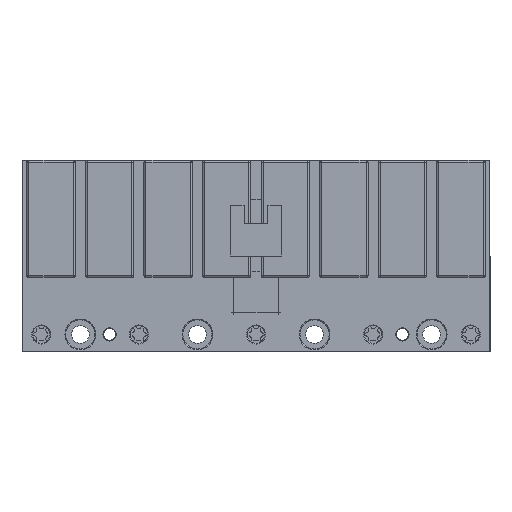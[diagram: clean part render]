
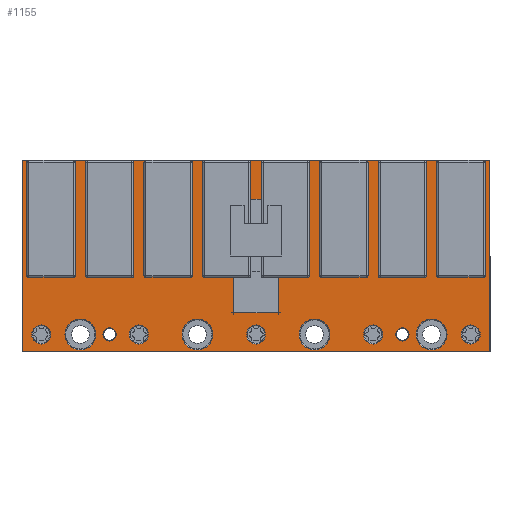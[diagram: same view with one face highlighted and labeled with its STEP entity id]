
A CAD part, front view. The second image highlights one B-rep face of the part: STEP entity #1155.
In plain terms, the highlighted planar face has unit normal (0, -1, 0).
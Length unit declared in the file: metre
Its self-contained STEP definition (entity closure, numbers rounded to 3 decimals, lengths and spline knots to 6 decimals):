
#1155 = ADVANCED_FACE( '', ( #1777, #1778, #1779, #1780, #1781, #1782, #1783, #1784, #1785, #1786, #1787, #1788 ), #1789, .T. );
#1777 = FACE_BOUND( '', #3030, .T. );
#1778 = FACE_BOUND( '', #3031, .T. );
#1779 = FACE_BOUND( '', #3032, .T. );
#1780 = FACE_BOUND( '', #3033, .T. );
#1781 = FACE_BOUND( '', #3034, .T. );
#1782 = FACE_BOUND( '', #3035, .T. );
#1783 = FACE_BOUND( '', #3036, .T. );
#1784 = FACE_BOUND( '', #3037, .T. );
#1785 = FACE_BOUND( '', #3038, .T. );
#1786 = FACE_BOUND( '', #3039, .T. );
#1787 = FACE_BOUND( '', #3040, .T. );
#1788 = FACE_OUTER_BOUND( '', #3041, .T. );
#1789 = PLANE( '', #3042 );
#3030 = EDGE_LOOP( '', ( #4398 ) );
#3031 = EDGE_LOOP( '', ( #4399 ) );
#3032 = EDGE_LOOP( '', ( #4400 ) );
#3033 = EDGE_LOOP( '', ( #4401 ) );
#3034 = EDGE_LOOP( '', ( #4402 ) );
#3035 = EDGE_LOOP( '', ( #4403 ) );
#3036 = EDGE_LOOP( '', ( #4404 ) );
#3037 = EDGE_LOOP( '', ( #4405 ) );
#3038 = EDGE_LOOP( '', ( #4406 ) );
#3039 = EDGE_LOOP( '', ( #4407 ) );
#3040 = EDGE_LOOP( '', ( #4408 ) );
#3041 = EDGE_LOOP( '', ( #4409, #4410, #4411, #4412 ) );
#3042 = AXIS2_PLACEMENT_3D( '', #4413, #4414, #4415 );
#4398 = ORIENTED_EDGE( '', *, *, #8495, .T. );
#4399 = ORIENTED_EDGE( '', *, *, #8496, .T. );
#4400 = ORIENTED_EDGE( '', *, *, #8498, .T. );
#4401 = ORIENTED_EDGE( '', *, *, #8500, .T. );
#4402 = ORIENTED_EDGE( '', *, *, #8501, .T. );
#4403 = ORIENTED_EDGE( '', *, *, #8503, .T. );
#4404 = ORIENTED_EDGE( '', *, *, #8504, .T. );
#4405 = ORIENTED_EDGE( '', *, *, #8506, .T. );
#4406 = ORIENTED_EDGE( '', *, *, #8508, .T. );
#4407 = ORIENTED_EDGE( '', *, *, #8510, .T. );
#4408 = ORIENTED_EDGE( '', *, *, #8512, .T. );
#4409 = ORIENTED_EDGE( '', *, *, #8448, .T. );
#4410 = ORIENTED_EDGE( '', *, *, #8487, .T. );
#4411 = ORIENTED_EDGE( '', *, *, #8468, .T. );
#4412 = ORIENTED_EDGE( '', *, *, #8486, .T. );
#4413 = CARTESIAN_POINT( '', ( -0.05995, -0.002, 0.0245 ) );
#4414 = DIRECTION( '', ( 0., -1., 0. ) );
#4415 = DIRECTION( '', ( 0., 0., -1. ) );
#8448 = EDGE_CURVE( '', #9723, #9721, #9724, .T. );
#8468 = EDGE_CURVE( '', #9735, #9759, #9761, .T. );
#8486 = EDGE_CURVE( '', #9759, #9723, #9789, .T. );
#8487 = EDGE_CURVE( '', #9721, #9735, #9790, .T. );
#8495 = EDGE_CURVE( '', #9803, #9803, #9804, .F. );
#8496 = EDGE_CURVE( '', #9805, #9805, #9806, .F. );
#8498 = EDGE_CURVE( '', #9809, #9809, #9810, .F. );
#8500 = EDGE_CURVE( '', #9813, #9813, #9814, .F. );
#8501 = EDGE_CURVE( '', #9815, #9815, #9816, .F. );
#8503 = EDGE_CURVE( '', #9819, #9819, #9820, .F. );
#8504 = EDGE_CURVE( '', #9821, #9821, #9822, .F. );
#8506 = EDGE_CURVE( '', #9825, #9825, #9826, .F. );
#8508 = EDGE_CURVE( '', #9829, #9829, #9830, .F. );
#8510 = EDGE_CURVE( '', #9833, #9833, #9834, .F. );
#8512 = EDGE_CURVE( '', #9837, #9837, #9838, .F. );
#9721 = VERTEX_POINT( '', #11806 );
#9723 = VERTEX_POINT( '', #11809 );
#9724 = LINE( '', #11810, #11811 );
#9735 = VERTEX_POINT( '', #11836 );
#9759 = VERTEX_POINT( '', #11904 );
#9761 = LINE( '', #11907, #11908 );
#9789 = LINE( '', #11940, #11941 );
#9790 = LINE( '', #11942, #11943 );
#9803 = VERTEX_POINT( '', #11960 );
#9804 = CIRCLE( '', #11961, 0.00245 );
#9805 = VERTEX_POINT( '', #11962 );
#9806 = CIRCLE( '', #11963, 0.00395 );
#9809 = VERTEX_POINT( '', #11966 );
#9810 = CIRCLE( '', #11967, 0.0017 );
#9813 = VERTEX_POINT( '', #11970 );
#9814 = CIRCLE( '', #11971, 0.00245 );
#9815 = VERTEX_POINT( '', #11972 );
#9816 = CIRCLE( '', #11973, 0.00395 );
#9819 = VERTEX_POINT( '', #11976 );
#9820 = CIRCLE( '', #11977, 0.00245 );
#9821 = VERTEX_POINT( '', #11978 );
#9822 = CIRCLE( '', #11979, 0.00395 );
#9825 = VERTEX_POINT( '', #11982 );
#9826 = CIRCLE( '', #11983, 0.00245 );
#9829 = VERTEX_POINT( '', #11986 );
#9830 = CIRCLE( '', #11987, 0.0017 );
#9833 = VERTEX_POINT( '', #11990 );
#9834 = CIRCLE( '', #11991, 0.00395 );
#9837 = VERTEX_POINT( '', #11994 );
#9838 = CIRCLE( '', #11995, 0.00245 );
#11806 = CARTESIAN_POINT( '', ( -0.05995, -0.002, 0.0245 ) );
#11809 = CARTESIAN_POINT( '', ( 0.05995, -0.002, 0.0245 ) );
#11810 = CARTESIAN_POINT( '', ( 0.05995, -0.002, 0.0245 ) );
#11811 = VECTOR( '', #14654, 1. );
#11836 = CARTESIAN_POINT( '', ( -0.05995, -0.002, -0.0245 ) );
#11904 = CARTESIAN_POINT( '', ( 0.05995, -0.002, -0.0245 ) );
#11907 = CARTESIAN_POINT( '', ( -0.05995, -0.002, -0.0245 ) );
#11908 = VECTOR( '', #14672, 1. );
#11940 = CARTESIAN_POINT( '', ( 0.05995, -0.002, -0.0245 ) );
#11941 = VECTOR( '', #14716, 1. );
#11942 = CARTESIAN_POINT( '', ( -0.05995, -0.002, 0.0245 ) );
#11943 = VECTOR( '', #14717, 1. );
#11960 = CARTESIAN_POINT( '', ( -0.055, -0.002, -0.02255 ) );
#11961 = AXIS2_PLACEMENT_3D( '', #14734, #14735, #14736 );
#11962 = CARTESIAN_POINT( '', ( -0.045, -0.002, -0.02405 ) );
#11963 = AXIS2_PLACEMENT_3D( '', #14737, #14738, #14739 );
#11966 = CARTESIAN_POINT( '', ( -0.0375, -0.002, -0.0218 ) );
#11967 = AXIS2_PLACEMENT_3D( '', #14743, #14744, #14745 );
#11970 = CARTESIAN_POINT( '', ( -0.03, -0.002, -0.02255 ) );
#11971 = AXIS2_PLACEMENT_3D( '', #14749, #14750, #14751 );
#11972 = CARTESIAN_POINT( '', ( -0.015, -0.002, -0.02405 ) );
#11973 = AXIS2_PLACEMENT_3D( '', #14752, #14753, #14754 );
#11976 = CARTESIAN_POINT( '', ( 0., -0.002, -0.02255 ) );
#11977 = AXIS2_PLACEMENT_3D( '', #14758, #14759, #14760 );
#11978 = CARTESIAN_POINT( '', ( 0.015, -0.002, -0.02405 ) );
#11979 = AXIS2_PLACEMENT_3D( '', #14761, #14762, #14763 );
#11982 = CARTESIAN_POINT( '', ( 0.03, -0.002, -0.02255 ) );
#11983 = AXIS2_PLACEMENT_3D( '', #14767, #14768, #14769 );
#11986 = CARTESIAN_POINT( '', ( 0.0375, -0.002, -0.0218 ) );
#11987 = AXIS2_PLACEMENT_3D( '', #14773, #14774, #14775 );
#11990 = CARTESIAN_POINT( '', ( 0.045, -0.002, -0.02405 ) );
#11991 = AXIS2_PLACEMENT_3D( '', #14779, #14780, #14781 );
#11994 = CARTESIAN_POINT( '', ( 0.055, -0.002, -0.02255 ) );
#11995 = AXIS2_PLACEMENT_3D( '', #14785, #14786, #14787 );
#14654 = DIRECTION( '', ( -1., 0., 0. ) );
#14672 = DIRECTION( '', ( 1., 0., 0. ) );
#14716 = DIRECTION( '', ( 0., 0., 1. ) );
#14717 = DIRECTION( '', ( 0., 0., -1. ) );
#14734 = CARTESIAN_POINT( '', ( -0.055, -0.002, -0.0201 ) );
#14735 = DIRECTION( '', ( 0., -1., 0. ) );
#14736 = DIRECTION( '', ( 0., 0., -1. ) );
#14737 = CARTESIAN_POINT( '', ( -0.045, -0.002, -0.0201 ) );
#14738 = DIRECTION( '', ( 0., -1., 0. ) );
#14739 = DIRECTION( '', ( 0., 0., -1. ) );
#14743 = CARTESIAN_POINT( '', ( -0.0375, -0.002, -0.0201 ) );
#14744 = DIRECTION( '', ( 0., -1., 0. ) );
#14745 = DIRECTION( '', ( 0., 0., -1. ) );
#14749 = CARTESIAN_POINT( '', ( -0.03, -0.002, -0.0201 ) );
#14750 = DIRECTION( '', ( 0., -1., 0. ) );
#14751 = DIRECTION( '', ( 0., 0., -1. ) );
#14752 = CARTESIAN_POINT( '', ( -0.015, -0.002, -0.0201 ) );
#14753 = DIRECTION( '', ( 0., -1., 0. ) );
#14754 = DIRECTION( '', ( 0., 0., -1. ) );
#14758 = CARTESIAN_POINT( '', ( 0., -0.002, -0.0201 ) );
#14759 = DIRECTION( '', ( 0., -1., 0. ) );
#14760 = DIRECTION( '', ( 0., 0., -1. ) );
#14761 = CARTESIAN_POINT( '', ( 0.015, -0.002, -0.0201 ) );
#14762 = DIRECTION( '', ( 0., -1., 0. ) );
#14763 = DIRECTION( '', ( 0., 0., -1. ) );
#14767 = CARTESIAN_POINT( '', ( 0.03, -0.002, -0.0201 ) );
#14768 = DIRECTION( '', ( 0., -1., 0. ) );
#14769 = DIRECTION( '', ( 0., 0., -1. ) );
#14773 = CARTESIAN_POINT( '', ( 0.0375, -0.002, -0.0201 ) );
#14774 = DIRECTION( '', ( 0., -1., 0. ) );
#14775 = DIRECTION( '', ( 0., 0., -1. ) );
#14779 = CARTESIAN_POINT( '', ( 0.045, -0.002, -0.0201 ) );
#14780 = DIRECTION( '', ( 0., -1., 0. ) );
#14781 = DIRECTION( '', ( 0., 0., -1. ) );
#14785 = CARTESIAN_POINT( '', ( 0.055, -0.002, -0.0201 ) );
#14786 = DIRECTION( '', ( 0., -1., 0. ) );
#14787 = DIRECTION( '', ( 0., 0., -1. ) );
